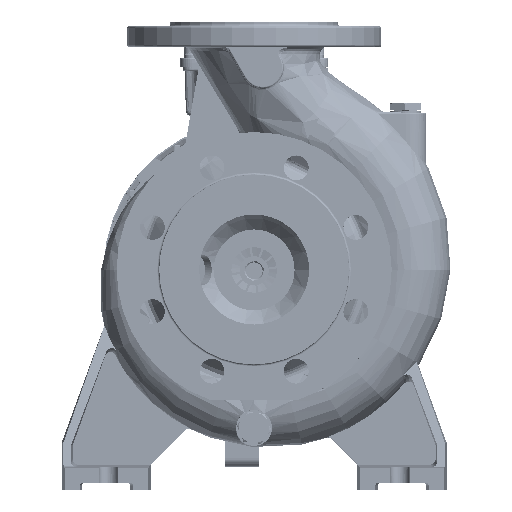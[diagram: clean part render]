
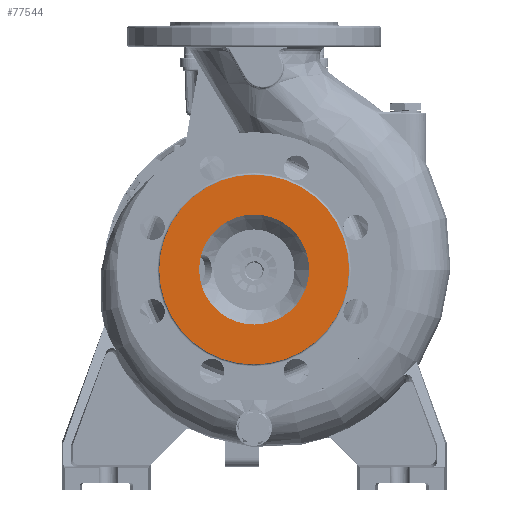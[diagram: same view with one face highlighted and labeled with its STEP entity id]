
A CAD part, top view. The second image highlights one B-rep face of the part: STEP entity #77544.
In plain terms, the highlighted planar face has unit normal (0, 0, 1).
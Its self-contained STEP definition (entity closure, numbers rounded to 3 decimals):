
#4621 = CIRCLE ( 'NONE', #157065, 69. ) ;
#5920 = DIRECTION ( 'NONE',  ( 1., 0., 0. ) ) ;
#6357 = DIRECTION ( 'NONE',  ( 0., 0., 1. ) ) ;
#7440 = DIRECTION ( 'NONE',  ( 0., 0., 1. ) ) ;
#7865 = DIRECTION ( 'NONE',  ( 1., 0., 0. ) ) ;
#10544 = FACE_BOUND ( 'NONE', #177791, .T. ) ;
#12376 = DIRECTION ( 'NONE',  ( 1., 0., 0. ) ) ;
#32117 = DIRECTION ( 'NONE',  ( 0., 0., 1. ) ) ;
#32447 = CARTESIAN_POINT ( 'NONE',  ( 0., 0., 100. ) ) ;
#47566 = AXIS2_PLACEMENT_3D ( 'NONE', #218363, #32117, #242974 ) ;
#66484 = CARTESIAN_POINT ( 'NONE',  ( -69., 0., 100. ) ) ;
#75199 = CARTESIAN_POINT ( 'NONE',  ( 0., 0., 100. ) ) ;
#77544 = ADVANCED_FACE ( 'NONE', ( #10544, #196777 ), #99896, .T. ) ;
#77786 = AXIS2_PLACEMENT_3D ( 'NONE', #75199, #7440, #5920 ) ;
#83597 = CARTESIAN_POINT ( 'NONE',  ( 40., 0., 100. ) ) ;
#99896 = PLANE ( 'NONE',  #47566 ) ;
#121643 = DIRECTION ( 'NONE',  ( 0., 0., 1. ) ) ;
#137932 = CARTESIAN_POINT ( 'NONE',  ( 69., 0., 100. ) ) ;
#139509 = EDGE_CURVE ( 'NONE', #183192, #235501, #210120, .T. ) ;
#144468 = EDGE_CURVE ( 'NONE', #284609, #148859, #210529, .T. ) ;
#148859 = VERTEX_POINT ( 'NONE', #83597 ) ;
#150103 = ORIENTED_EDGE ( 'NONE', *, *, #139509, .T. ) ;
#150968 = CARTESIAN_POINT ( 'NONE',  ( 0., 0., 100. ) ) ;
#157065 = AXIS2_PLACEMENT_3D ( 'NONE', #150968, #6357, #7865 ) ;
#158204 = ORIENTED_EDGE ( 'NONE', *, *, #264833, .F. ) ;
#165908 = AXIS2_PLACEMENT_3D ( 'NONE', #240096, #121643, #218507 ) ;
#170992 = DIRECTION ( 'NONE',  ( 0., 0., 1. ) ) ;
#173185 = EDGE_CURVE ( 'NONE', #235501, #183192, #4621, .T. ) ;
#175440 = AXIS2_PLACEMENT_3D ( 'NONE', #32447, #170992, #12376 ) ;
#177791 = EDGE_LOOP ( 'NONE', ( #300802, #158204 ) ) ;
#183192 = VERTEX_POINT ( 'NONE', #137932 ) ;
#185099 = CIRCLE ( 'NONE', #175440, 40. ) ;
#196777 = FACE_OUTER_BOUND ( 'NONE', #198010, .T. ) ;
#198010 = EDGE_LOOP ( 'NONE', ( #218839, #150103 ) ) ;
#210120 = CIRCLE ( 'NONE', #165908, 69. ) ;
#210529 = CIRCLE ( 'NONE', #77786, 40. ) ;
#218363 = CARTESIAN_POINT ( 'NONE',  ( 0., 100., 100. ) ) ;
#218507 = DIRECTION ( 'NONE',  ( 1., 0., 0. ) ) ;
#218839 = ORIENTED_EDGE ( 'NONE', *, *, #173185, .T. ) ;
#235501 = VERTEX_POINT ( 'NONE', #66484 ) ;
#240096 = CARTESIAN_POINT ( 'NONE',  ( 0., 0., 100. ) ) ;
#242017 = CARTESIAN_POINT ( 'NONE',  ( -40., 0., 100. ) ) ;
#242974 = DIRECTION ( 'NONE',  ( 1., 0., 0. ) ) ;
#264833 = EDGE_CURVE ( 'NONE', #148859, #284609, #185099, .T. ) ;
#284609 = VERTEX_POINT ( 'NONE', #242017 ) ;
#300802 = ORIENTED_EDGE ( 'NONE', *, *, #144468, .F. ) ;
